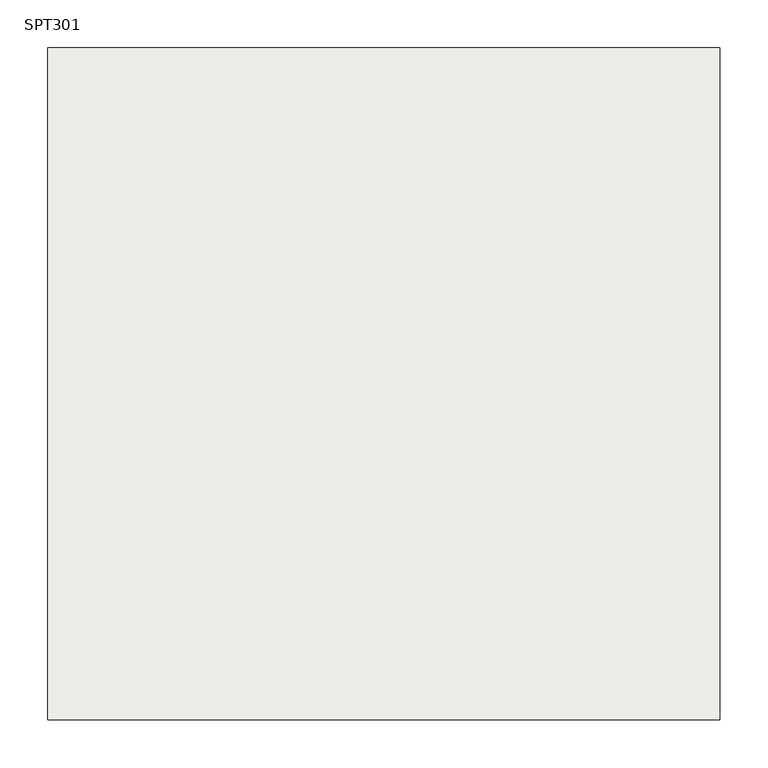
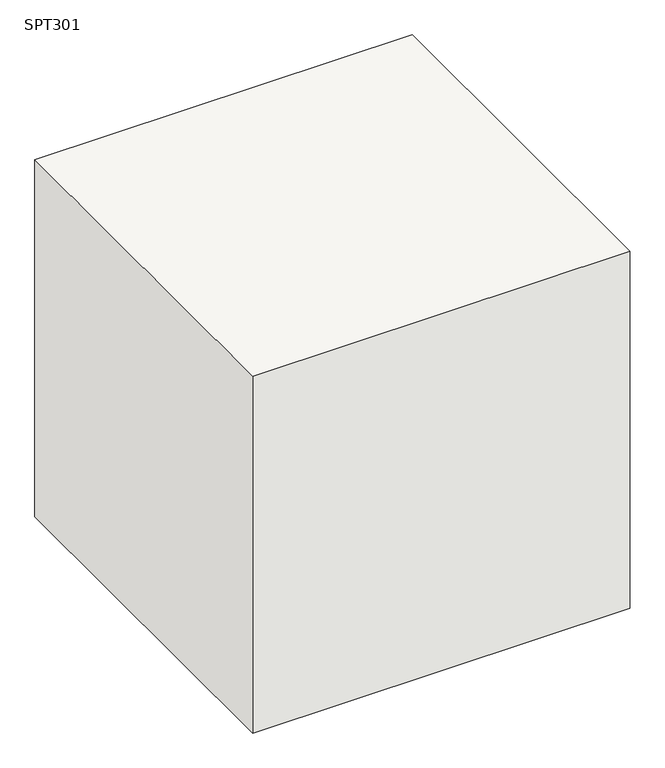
"""IFC4 building model written with IfcOpenShell, lengths in millimetres: slab geometry, 柱形_SPT : SPT301."""

from ifc_helpers import new_model, si_unit, frame, origin, place, context, project, spatial, polyline, outline, extrude, source, transform, mapped, element, save


def spt301_a27fa21e(model_context):
    return source(origin(), model_context, "Body", "SweptSolid", [
        extrude(outline(polyline([(350.0, 350.0), (350.0, -350.0), (-350.0, -350.0), (-350.0, 350.0), (350.0, 350.0)])), frame((0.0, 0.0, -700.0), z_axis=(0.0, 0.0, 1.0), x_axis=(1.0, 0.0, 0.0)), (0.0, 0.0, 1.0), 700.0),
    ])


if __name__ == "__main__":
    model = new_model("IFC4")
    model_context = context("Model", 3, world=origin())
    ifc_project = project(units=[si_unit("LENGTHUNIT", "METRE", prefix="MILLI")], contexts=[model_context])
    site = spatial("IfcSite", under=ifc_project)
    building = spatial("IfcBuilding", under=site)
    placement = place(None, origin())
    spt301_shape = spt301_a27fa21e(model_context)
    element("IfcSlab", 1, ObjectType="柱形_SPT : SPT301", at=placement, inside=building, context=model_context, shape_type="MappedRepresentation", body=[
        mapped(spt301_shape, transform((0.0, 0.0, 0.0), x_axis=(1.0, 0.0, 0.0), y_axis=(0.0, 1.0, 0.0), z_axis=(0.0, 0.0, 1.0))),
    ])
    save(model, "model.ifc")
